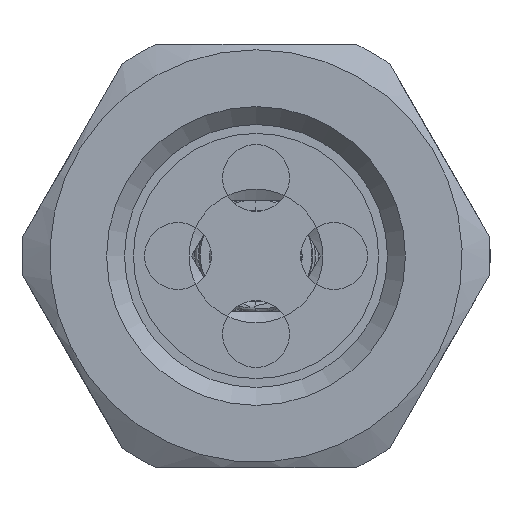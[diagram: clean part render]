
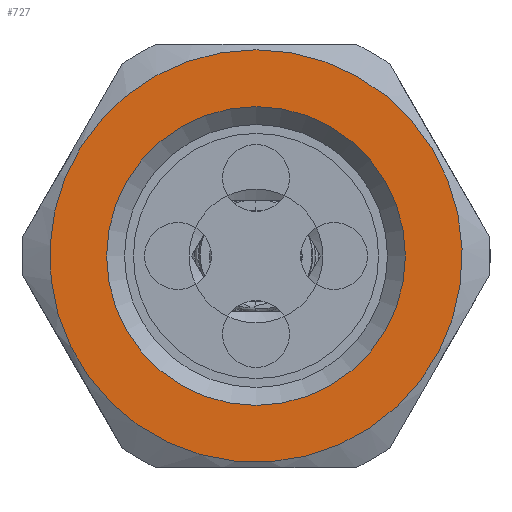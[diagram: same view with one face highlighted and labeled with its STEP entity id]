
A CAD part, left-side view. The second image highlights one B-rep face of the part: STEP entity #727.
In plain terms, the highlighted planar face has unit normal (-1, 0, 0).
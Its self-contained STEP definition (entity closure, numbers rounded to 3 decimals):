
#15 = FACE_OUTER_BOUND ( 'NONE', #2674, .T. ) ;
#67 = CIRCLE ( 'NONE', #1034, 9.25 ) ;
#368 = FACE_BOUND ( 'NONE', #3452, .T. ) ;
#576 = CARTESIAN_POINT ( 'NONE',  ( 0., 0., 9.25 ) ) ;
#578 = CIRCLE ( 'NONE', #4482, 6.7 ) ;
#727 = ADVANCED_FACE ( 'NONE', ( #368, #15 ), #4455, .F. ) ;
#1034 = AXIS2_PLACEMENT_3D ( 'NONE', #5208, #2369, #2413 ) ;
#1053 = CARTESIAN_POINT ( 'NONE',  ( 0., 0., 6.7 ) ) ;
#1100 = VERTEX_POINT ( 'NONE', #576 ) ;
#1697 = CARTESIAN_POINT ( 'NONE',  ( 0., 6.7, 0. ) ) ;
#2128 = DIRECTION ( 'NONE',  ( 1., 0., 0. ) ) ;
#2244 = EDGE_CURVE ( 'NONE', #3439, #3439, #578, .T. ) ;
#2369 = DIRECTION ( 'NONE',  ( -1., 0., 0. ) ) ;
#2413 = DIRECTION ( 'NONE',  ( 0., 0., 1. ) ) ;
#2421 = EDGE_CURVE ( 'NONE', #1100, #1100, #67, .T. ) ;
#2674 = EDGE_LOOP ( 'NONE', ( #3447 ) ) ;
#3303 = ORIENTED_EDGE ( 'NONE', *, *, #2244, .F. ) ;
#3439 = VERTEX_POINT ( 'NONE', #1053 ) ;
#3447 = ORIENTED_EDGE ( 'NONE', *, *, #2421, .T. ) ;
#3452 = EDGE_LOOP ( 'NONE', ( #3303 ) ) ;
#3931 = AXIS2_PLACEMENT_3D ( 'NONE', #1697, #2128, #5412 ) ;
#4080 = CARTESIAN_POINT ( 'NONE',  ( 0., 0., 0. ) ) ;
#4455 = PLANE ( 'NONE',  #3931 ) ;
#4482 = AXIS2_PLACEMENT_3D ( 'NONE', #4080, #4607, #5079 ) ;
#4607 = DIRECTION ( 'NONE',  ( -1., 0., 0. ) ) ;
#5079 = DIRECTION ( 'NONE',  ( 0., 0., 1. ) ) ;
#5208 = CARTESIAN_POINT ( 'NONE',  ( 0., 0., 0. ) ) ;
#5412 = DIRECTION ( 'NONE',  ( 0., 0., -1. ) ) ;
